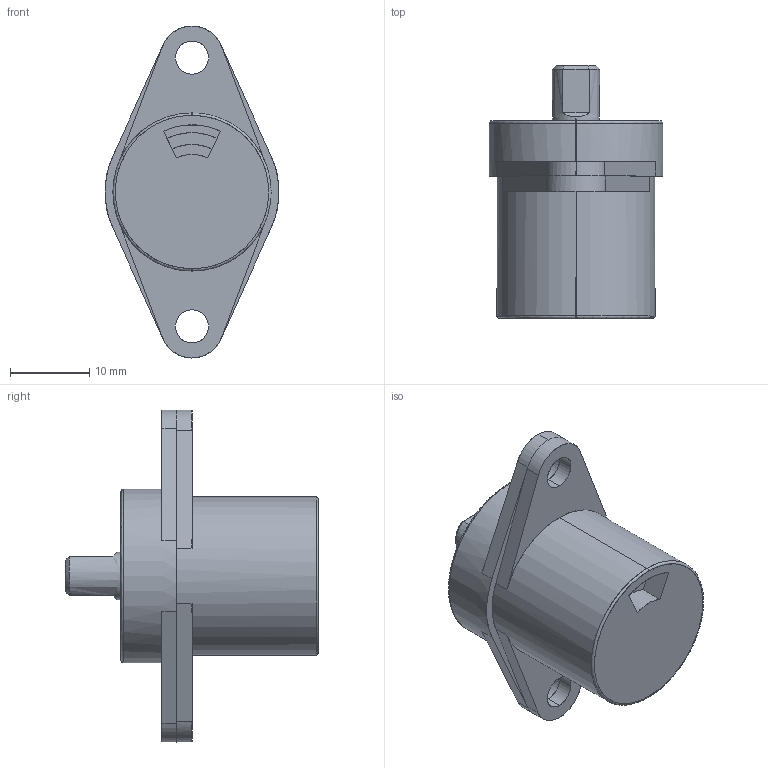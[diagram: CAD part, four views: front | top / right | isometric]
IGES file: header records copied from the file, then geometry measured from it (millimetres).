
Start section: SolidWorks IGES file using analytic representation for surfaces
Bounding box: 22 x 32 x 42 mm (x, y, z)
Surface area: 3400.3 mm2 (no closed solid volume)
Topology: 0 solids, 0 shells, 60 faces, 818 edges, 818 vertices
Faces by surface type: bspline 34, revolution 26
